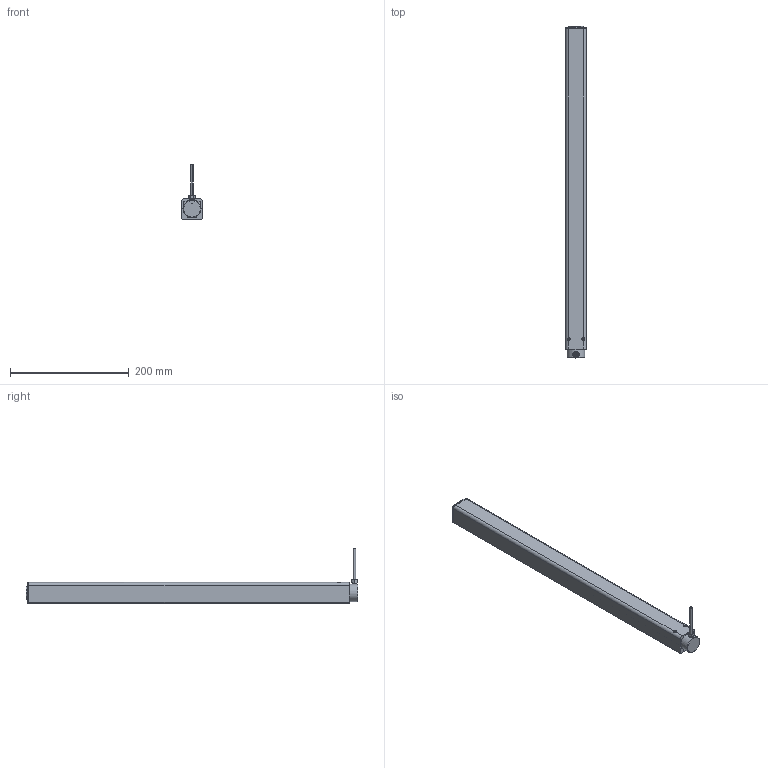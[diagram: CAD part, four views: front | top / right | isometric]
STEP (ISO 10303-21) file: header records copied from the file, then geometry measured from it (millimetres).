
FILE_DESCRIPTION(/* description */ ('Unknown'),/* implementation_level */ '2;1');
FILE_NAME(/* name */ '106.20184 Lineareinheit LA 1840 R_eingefahren',/* time_stamp */ '2017-10-06T10:07:18+02:00',/* author */ ('Unknown'),/* organization */ ('Unknown'),/* preprocessor_version */ 'ST-DEVELOPER v16.7',/* originating_system */ 'DEX',/* authorisation */ $);
FILE_SCHEMA (('AUTOMOTIVE_DESIGN {1 0 10303 214 3 1 1}'));
Products named in the file (11): 106.20184; 119.00004; 142.00014; 142.00021; 125.00021; 115.00008; 125.00062; 122.00018; 125.00051; 123.00004; 113.00002_70mm
Assembly tree (11 placements, depth 2):
  106.20184
    119.00004
    142.00014  x2
    142.00021
    125.00021
    115.00008
    125.00062
    122.00018
    125.00051
    123.00004
    113.00002_70mm
Bounding box: 35 x 559 x 91.75 mm (x, y, z)
Volume: 386510.5 mm3; surface area: 249172.5 mm2
Topology: 10 solids, 10 shells, 810 faces, 1896 edges, 1132 vertices
Faces by surface type: cylinder 280, bspline 224, plane 214, cone 50, torus 29, sphere 13
Full cylindrical faces by diameter (mm): 2.2 x1, 3.5 x2, 4 x7, 4.1 x1, 4.134 x4, 4.2 x1, 6.647 x1, 6.917 x2, 8 x2, 8.376 x1, 14.4 x1, 17.3 x1, 17.9 x2, 19 x2, 20.8 x3, 21 x1, 25 x1, 29.5 x2, 30.63 x1
Entity records: 76151 total; most frequent: CARTESIAN_POINT 59516, ORIENTED_EDGE 3508, DIRECTION 2671, EDGE_CURVE 1754, VERTEX_POINT 1077, AXIS2_PLACEMENT_3D 1047, FACE_BOUND 921, EDGE_LOOP 919
